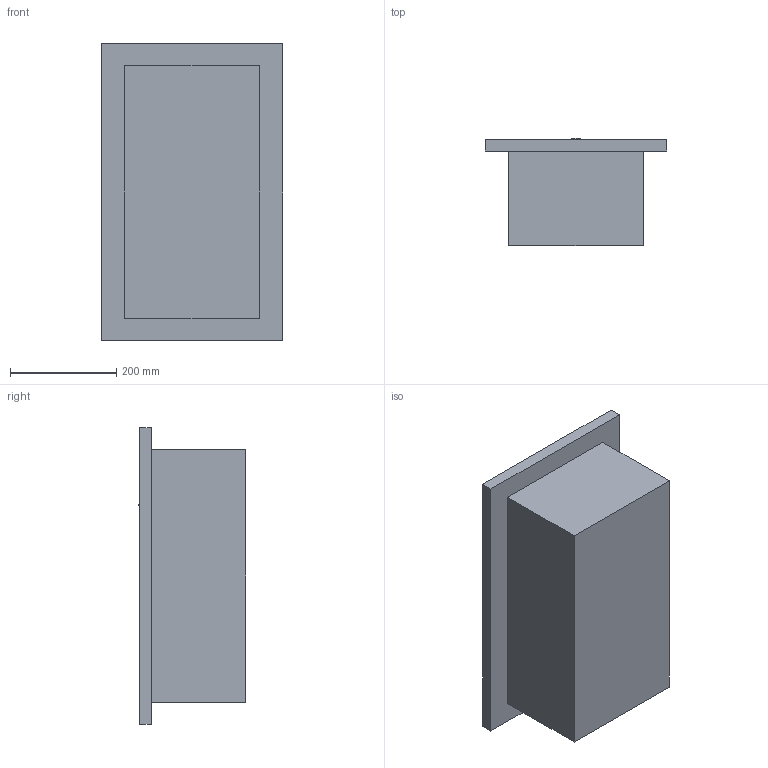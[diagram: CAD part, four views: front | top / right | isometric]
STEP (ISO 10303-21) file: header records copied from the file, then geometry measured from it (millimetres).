
FILE_DESCRIPTION (( 'STEP AP203' ), '1' );
FILE_NAME ('BIB10.STEP', '2020-04-24T15:48:04', ( '8DNKR52' ), ( 'Microsoft' ), 'SwSTEP 2.0', 'SolidWorks 2019', '' );
FILE_SCHEMA (( 'CONFIG_CONTROL_DESIGN' ));
Length unit declared in the file: inch
Products named in the file (1): BIB10
Bounding box: 342.9 x 202.13 x 558.8 mm (x, y, z)
Volume: 23192122 mm3; surface area: 746904.1 mm2
Topology: 1 solids, 1 shells, 20 faces, 43 edges, 29 vertices
Faces by surface type: plane 18, cylinder 2
Full cylindrical faces by diameter (mm): 50.8 x1, 63.5 x1
Entity records: 599 total; most frequent: CARTESIAN_POINT 89, DIRECTION 86, ORIENTED_EDGE 80, EDGE_CURVE 40, LINE 36, VECTOR 36, VERTEX_POINT 28, EDGE_LOOP 26
